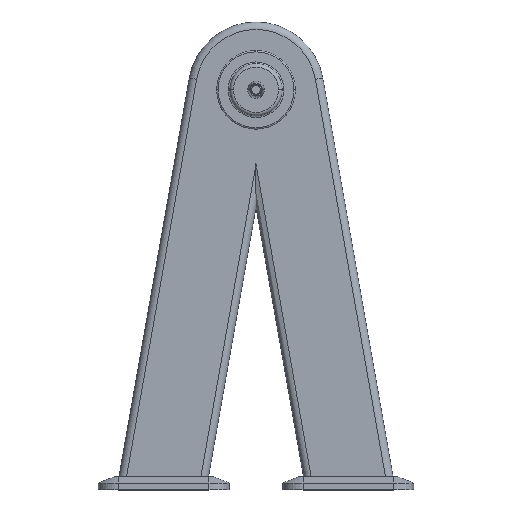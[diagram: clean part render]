
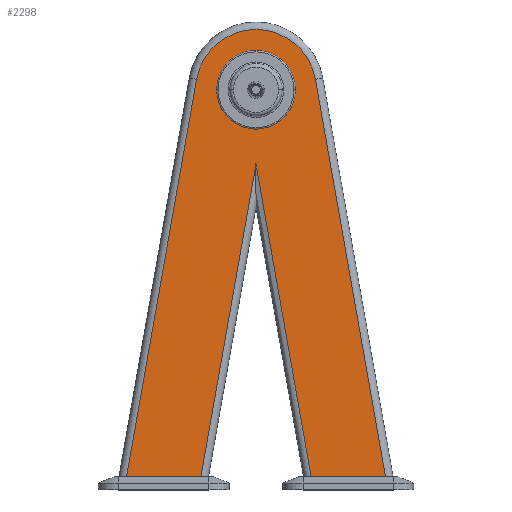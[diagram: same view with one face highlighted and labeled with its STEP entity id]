
A CAD part, top view. The second image highlights one B-rep face of the part: STEP entity #2298.
In plain terms, the highlighted planar face has unit normal (0, 0, 1).
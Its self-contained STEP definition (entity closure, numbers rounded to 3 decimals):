
#11 = CARTESIAN_POINT ( 'NONE',  ( 58., 590., 63. ) ) ;
#28 = CARTESIAN_POINT ( 'NONE',  ( 190.879, 20., 63. ) ) ;
#43 = AXIS2_PLACEMENT_3D ( 'NONE', #158, #1733, #397 ) ;
#52 = ORIENTED_EDGE ( 'NONE', *, *, #2271, .F. ) ;
#53 = PLANE ( 'NONE',  #125 ) ;
#78 = CARTESIAN_POINT ( 'NONE',  ( 0., 590., 63. ) ) ;
#79 = DIRECTION ( 'NONE',  ( 0., 0., 1. ) ) ;
#96 = VERTEX_POINT ( 'NONE', #527 ) ;
#125 = AXIS2_PLACEMENT_3D ( 'NONE', #1272, #460, #842 ) ;
#158 = CARTESIAN_POINT ( 'NONE',  ( 0., 590., 63. ) ) ;
#206 = DIRECTION ( 'NONE',  ( -0.174, 0.985, 0. ) ) ;
#276 = EDGE_CURVE ( 'NONE', #2524, #350, #947, .T. ) ;
#330 = LINE ( 'NONE', #845, #744 ) ;
#350 = VERTEX_POINT ( 'NONE', #869 ) ;
#372 = EDGE_LOOP ( 'NONE', ( #2146, #1471, #2772, #52, #1413, #2746, #1810 ) ) ;
#380 = CARTESIAN_POINT ( 'NONE',  ( 0., 20., 63. ) ) ;
#382 = LINE ( 'NONE', #2221, #2055 ) ;
#390 = ORIENTED_EDGE ( 'NONE', *, *, #808, .F. ) ;
#397 = DIRECTION ( 'NONE',  ( 1., 0., 0. ) ) ;
#460 = DIRECTION ( 'NONE',  ( 0., 0., 1. ) ) ;
#493 = DIRECTION ( 'NONE',  ( 1., 0., 0. ) ) ;
#520 = VECTOR ( 'NONE', #2369, 1000. ) ;
#527 = CARTESIAN_POINT ( 'NONE',  ( -87.648, 605.455, 63. ) ) ;
#545 = ORIENTED_EDGE ( 'NONE', *, *, #1559, .F. ) ;
#598 = CARTESIAN_POINT ( 'NONE',  ( -195.801, -7.91, 63. ) ) ;
#609 = AXIS2_PLACEMENT_3D ( 'NONE', #793, #2261, #1026 ) ;
#703 = EDGE_CURVE ( 'NONE', #1978, #2231, #382, .T. ) ;
#744 = VECTOR ( 'NONE', #2115, 1000. ) ;
#793 = CARTESIAN_POINT ( 'NONE',  ( 0., 590., 63. ) ) ;
#808 = EDGE_CURVE ( 'NONE', #2580, #891, #1395, .T. ) ;
#842 = DIRECTION ( 'NONE',  ( 1., 0., 0. ) ) ;
#845 = CARTESIAN_POINT ( 'NONE',  ( -10.833, 419.147, 63. ) ) ;
#869 = CARTESIAN_POINT ( 'NONE',  ( -190.879, 20., 63. ) ) ;
#891 = VERTEX_POINT ( 'NONE', #2094 ) ;
#933 = CARTESIAN_POINT ( 'NONE',  ( -81.213, 20., 63. ) ) ;
#947 = LINE ( 'NONE', #2096, #1398 ) ;
#1009 = LINE ( 'NONE', #380, #520 ) ;
#1026 = DIRECTION ( 'NONE',  ( 1., 0., 0. ) ) ;
#1109 = CARTESIAN_POINT ( 'NONE',  ( 0., 480.583, 63. ) ) ;
#1128 = EDGE_CURVE ( 'NONE', #1309, #1352, #2122, .T. ) ;
#1158 = CIRCLE ( 'NONE', #43, 58. ) ;
#1193 = AXIS2_PLACEMENT_3D ( 'NONE', #78, #79, #493 ) ;
#1213 = CARTESIAN_POINT ( 'NONE',  ( 81.213, 20., 63. ) ) ;
#1239 = CARTESIAN_POINT ( 'NONE',  ( 87.648, 605.455, 63. ) ) ;
#1272 = CARTESIAN_POINT ( 'NONE',  ( 0., 590., 63. ) ) ;
#1309 = VERTEX_POINT ( 'NONE', #28 ) ;
#1352 = VERTEX_POINT ( 'NONE', #1239 ) ;
#1395 = CIRCLE ( 'NONE', #609, 58. ) ;
#1398 = VECTOR ( 'NONE', #2296, 1000. ) ;
#1413 = ORIENTED_EDGE ( 'NONE', *, *, #1128, .T. ) ;
#1471 = ORIENTED_EDGE ( 'NONE', *, *, #1916, .T. ) ;
#1496 = EDGE_CURVE ( 'NONE', #96, #350, #1771, .T. ) ;
#1559 = EDGE_CURVE ( 'NONE', #891, #2580, #1158, .T. ) ;
#1703 = VECTOR ( 'NONE', #1903, 1000. ) ;
#1733 = DIRECTION ( 'NONE',  ( 0., 0., 1. ) ) ;
#1771 = LINE ( 'NONE', #598, #1703 ) ;
#1810 = ORIENTED_EDGE ( 'NONE', *, *, #1496, .T. ) ;
#1903 = DIRECTION ( 'NONE',  ( -0.174, -0.985, 0. ) ) ;
#1916 = EDGE_CURVE ( 'NONE', #2524, #1978, #330, .T. ) ;
#1975 = CARTESIAN_POINT ( 'NONE',  ( 87.648, 605.455, 63. ) ) ;
#1978 = VERTEX_POINT ( 'NONE', #1109 ) ;
#2020 = DIRECTION ( 'NONE',  ( 0.174, -0.985, 0. ) ) ;
#2055 = VECTOR ( 'NONE', #2020, 1000. ) ;
#2094 = CARTESIAN_POINT ( 'NONE',  ( -58., 590., 63. ) ) ;
#2096 = CARTESIAN_POINT ( 'NONE',  ( 0., 20., 63. ) ) ;
#2106 = EDGE_LOOP ( 'NONE', ( #545, #390 ) ) ;
#2115 = DIRECTION ( 'NONE',  ( 0.174, 0.985, 0. ) ) ;
#2122 = LINE ( 'NONE', #1975, #2542 ) ;
#2146 = ORIENTED_EDGE ( 'NONE', *, *, #276, .F. ) ;
#2221 = CARTESIAN_POINT ( 'NONE',  ( 87.325, -14.664, 63. ) ) ;
#2231 = VERTEX_POINT ( 'NONE', #1213 ) ;
#2261 = DIRECTION ( 'NONE',  ( 0., 0., 1. ) ) ;
#2271 = EDGE_CURVE ( 'NONE', #1309, #2231, #1009, .T. ) ;
#2296 = DIRECTION ( 'NONE',  ( -1., 0., 0. ) ) ;
#2298 = ADVANCED_FACE ( 'NONE', ( #2599, #2537 ), #53, .T. ) ;
#2369 = DIRECTION ( 'NONE',  ( -1., 0., 0. ) ) ;
#2524 = VERTEX_POINT ( 'NONE', #933 ) ;
#2537 = FACE_OUTER_BOUND ( 'NONE', #372, .T. ) ;
#2542 = VECTOR ( 'NONE', #206, 1000. ) ;
#2580 = VERTEX_POINT ( 'NONE', #11 ) ;
#2599 = FACE_BOUND ( 'NONE', #2106, .T. ) ;
#2632 = EDGE_CURVE ( 'NONE', #1352, #96, #2783, .T. ) ;
#2746 = ORIENTED_EDGE ( 'NONE', *, *, #2632, .T. ) ;
#2772 = ORIENTED_EDGE ( 'NONE', *, *, #703, .T. ) ;
#2783 = CIRCLE ( 'NONE', #1193, 89. ) ;
